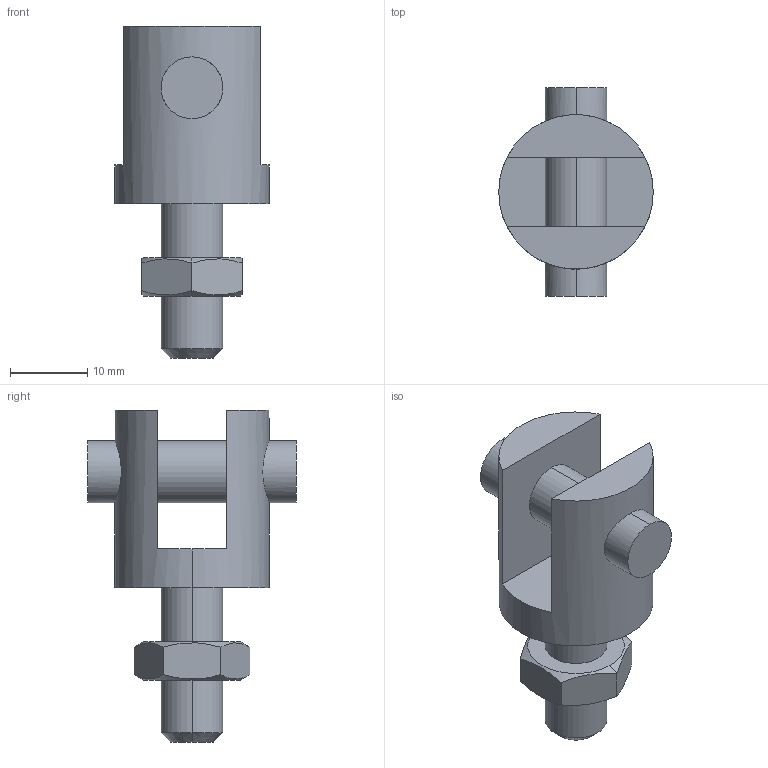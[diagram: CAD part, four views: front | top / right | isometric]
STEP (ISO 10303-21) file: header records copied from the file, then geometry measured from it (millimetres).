
FILE_DESCRIPTION (( 'STEP AP203' ), '1' );
FILE_NAME ('bj762-08001.STEP', '2021-10-25T01:27:31', ( '' ), ( '' ), 'SwSTEP 2.0', 'SolidWorks 2020', '' );
FILE_SCHEMA (( 'CONFIG_CONTROL_DESIGN' ));
Length unit declared in the file: millimetre
Products named in the file (3): bj762-08001; bj762-08001_01; bj762-08001_02
Assembly tree (2 placements, depth 2):
  bj762-08001
    bj762-08001_01
    bj762-08001_02
Bounding box: 20 x 27 x 43 mm (x, y, z)
Volume: 6382.7 mm3; surface area: 3703.1 mm2
Topology: 2 solids, 2 shells, 35 faces, 78 edges, 50 vertices
Faces by surface type: plane 17, cylinder 12, cone 6
Entity records: 1511 total; most frequent: CARTESIAN_POINT 424, DIRECTION 172, ORIENTED_EDGE 156, EDGE_CURVE 78, AXIS2_PLACEMENT_3D 70, VERTEX_POINT 50, EDGE_LOOP 42, FACE_OUTER_BOUND 35
